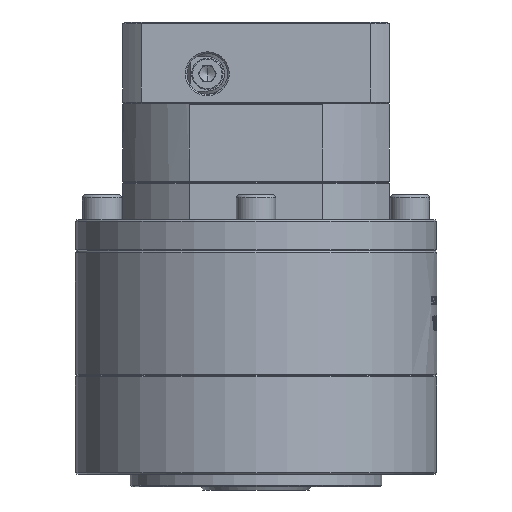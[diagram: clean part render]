
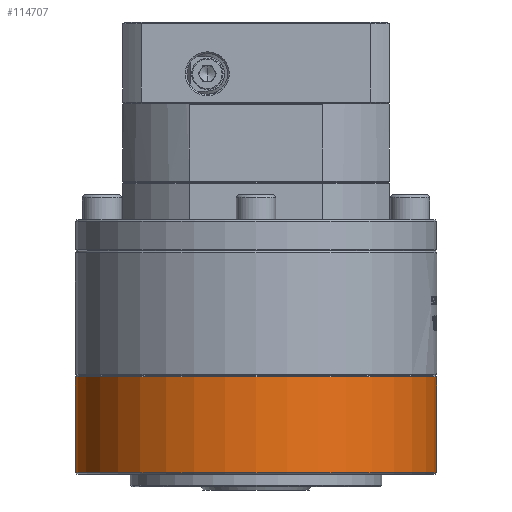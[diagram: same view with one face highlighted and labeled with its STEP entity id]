
A CAD part, left-side view. The second image highlights one B-rep face of the part: STEP entity #114707.
In plain terms, the highlighted cylindrical face has radius 57.5 mm (diameter 115 mm), a partial arc.
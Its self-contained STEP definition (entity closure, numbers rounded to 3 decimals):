
#2134 = ORIENTED_EDGE ( 'NONE', *, *, #46069, .F. ) ;
#5976 = CARTESIAN_POINT ( 'NONE',  ( 88.613, -44.936, -90.814 ) ) ;
#7172 = DIRECTION ( 'NONE',  ( 0., 1., 0. ) ) ;
#12116 = FACE_OUTER_BOUND ( 'NONE', #49732, .T. ) ;
#12516 = EDGE_CURVE ( 'NONE', #85837, #20695, #86882, .T. ) ;
#13453 = DIRECTION ( 'NONE',  ( 0., 0., 1. ) ) ;
#20695 = VERTEX_POINT ( 'NONE', #65937 ) ;
#24880 = VECTOR ( 'NONE', #13453, 1000. ) ;
#28377 = CARTESIAN_POINT ( 'NONE',  ( 88.613, 12.564, -90.814 ) ) ;
#30567 = EDGE_CURVE ( 'NONE', #92533, #85837, #111583, .T. ) ;
#36058 = ORIENTED_EDGE ( 'NONE', *, *, #60942, .F. ) ;
#36151 = ORIENTED_EDGE ( 'NONE', *, *, #12516, .T. ) ;
#39453 = ORIENTED_EDGE ( 'NONE', *, *, #30567, .T. ) ;
#43292 = CARTESIAN_POINT ( 'NONE',  ( 88.613, -44.936, -121.314 ) ) ;
#46069 = EDGE_CURVE ( 'NONE', #92533, #71135, #87217, .T. ) ;
#46633 = AXIS2_PLACEMENT_3D ( 'NONE', #5976, #70611, #7172 ) ;
#49732 = EDGE_LOOP ( 'NONE', ( #2134, #39453, #36151, #36058 ) ) ;
#51552 = CARTESIAN_POINT ( 'NONE',  ( 88.613, -44.936, -108.814 ) ) ;
#54131 = DIRECTION ( 'NONE',  ( 0., -1., 0. ) ) ;
#60942 = EDGE_CURVE ( 'NONE', #71135, #20695, #83548, .T. ) ;
#62755 = VECTOR ( 'NONE', #102601, 1000. ) ;
#65937 = CARTESIAN_POINT ( 'NONE',  ( 88.613, -102.436, -90.814 ) ) ;
#70044 = DIRECTION ( 'NONE',  ( 0., 0., 1. ) ) ;
#70611 = DIRECTION ( 'NONE',  ( 0., 0., 1. ) ) ;
#70728 = AXIS2_PLACEMENT_3D ( 'NONE', #43292, #117070, #54131 ) ;
#71135 = VERTEX_POINT ( 'NONE', #28377 ) ;
#75746 = CYLINDRICAL_SURFACE ( 'NONE', #119639, 57.5 ) ;
#83548 = CIRCLE ( 'NONE', #46633, 57.5 ) ;
#85837 = VERTEX_POINT ( 'NONE', #102722 ) ;
#86882 = LINE ( 'NONE', #111635, #24880 ) ;
#87217 = LINE ( 'NONE', #109941, #62755 ) ;
#89602 = CARTESIAN_POINT ( 'NONE',  ( 88.613, 12.564, -121.314 ) ) ;
#92533 = VERTEX_POINT ( 'NONE', #89602 ) ;
#98673 = DIRECTION ( 'NONE',  ( 0., -1., 0. ) ) ;
#102601 = DIRECTION ( 'NONE',  ( 0., 0., 1. ) ) ;
#102722 = CARTESIAN_POINT ( 'NONE',  ( 88.613, -102.436, -121.314 ) ) ;
#109941 = CARTESIAN_POINT ( 'NONE',  ( 88.613, 12.564, -108.814 ) ) ;
#111583 = CIRCLE ( 'NONE', #70728, 57.5 ) ;
#111635 = CARTESIAN_POINT ( 'NONE',  ( 88.613, -102.436, -108.814 ) ) ;
#114707 = ADVANCED_FACE ( 'NONE', ( #12116 ), #75746, .T. ) ;
#117070 = DIRECTION ( 'NONE',  ( 0., 0., 1. ) ) ;
#119639 = AXIS2_PLACEMENT_3D ( 'NONE', #51552, #70044, #98673 ) ;
